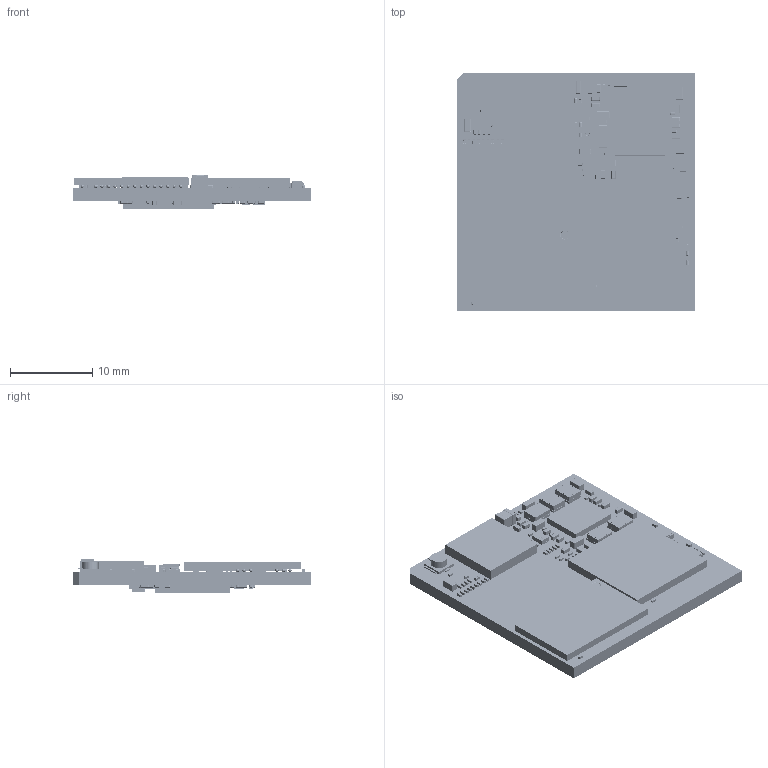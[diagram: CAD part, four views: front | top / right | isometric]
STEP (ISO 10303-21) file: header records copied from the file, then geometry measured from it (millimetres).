
FILE_DESCRIPTION(('Open CASCADE Model'),'2;1');
FILE_NAME('Open CASCADE Shape Model','2023-01-23T12:39:24',('Author'),( 'Open CASCADE'),'Open CASCADE STEP processor 6.8','Open CASCADE 6.8' ,'Unknown');
FILE_SCHEMA(('AUTOMOTIVE_DESIGN { 1 0 10303 214 1 1 1 1 }'));
Length unit declared in the file: millimetre
Products named in the file (246): PCB; Board; Open CASCADE STEP translator 6.8 2.1.1; X2; ECS-.327-12.5-16-TR--3DModel-STEP-1; R84; RESC0603X33; C121; CAPC0603X33; C120; U10; 6611320112; R80; C117; R82; R78; C119; CAPC1005X55L25; C118; U1; 7954526464; Extruded; R77; R76; R74; R73; R72; R71; RESC1608X55L30; R70; R66; R65; R64; R63; R62; R61; R57; C114; C113; C95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
Assembly tree (429 placements, depth 4):
  PCB
    Board
      Open CASCADE STEP translator 6.8 2.1.1
    X2
      ECS-.327-12.5-16-TR--3DModel-STEP-1
    R84
      RESC0603X33
    C121
      CAPC0603X33
    C120
      CAPC0603X33
    U10
      6611320112
    R80
      RESC0603X33
    C117
      CAPC0603X33
    R82
      RESC0603X33
    R78
      RESC0603X33
    C119
      CAPC1005X55L25
    C118
      CAPC1005X55L25
    U1
      7954526464
        Extruded
    R77
      RESC0603X33
    R76
      RESC0603X33
    R74
      RESC0603X33
    R73
      RESC0603X33
    R72
      RESC0603X33
    R71
      RESC1608X55L30
    R70
      RESC0603X33
    R66
      RESC0603X33
    R65
      RESC0603X33
    R64
      RESC0603X33
    R63
      RESC0603X33
    R62
      RESC0603X33
    R61
      RESC0603X33
    R57
      RESC0603X33
    C114
      CAPC0603X33
    C113
      CAPC0603X33
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Bounding box: 29 x 29 x 4.19 mm (x, y, z)
Volume: 1865.8 mm3; surface area: 4180.6 mm2
Topology: 851 solids, 857 shells, 12219 faces, 27796 edges, 15649 vertices
Faces by surface type: plane 5803, cylinder 4629, sphere 1656, bspline 127, torus 4
Full cylindrical faces by diameter (mm): 0.25 x1, 0.4 x1, 0.5 x1, 0.6 x1, 2 x1
Entity records: 55389 total; most frequent: CARTESIAN_POINT 9889, DIRECTION 7094, ORIENTED_EDGE 6034, EDGE_CURVE 3018, AXIS2_PLACEMENT_3D 2564, VERTEX_POINT 2069, LINE 1966, VECTOR 1966
